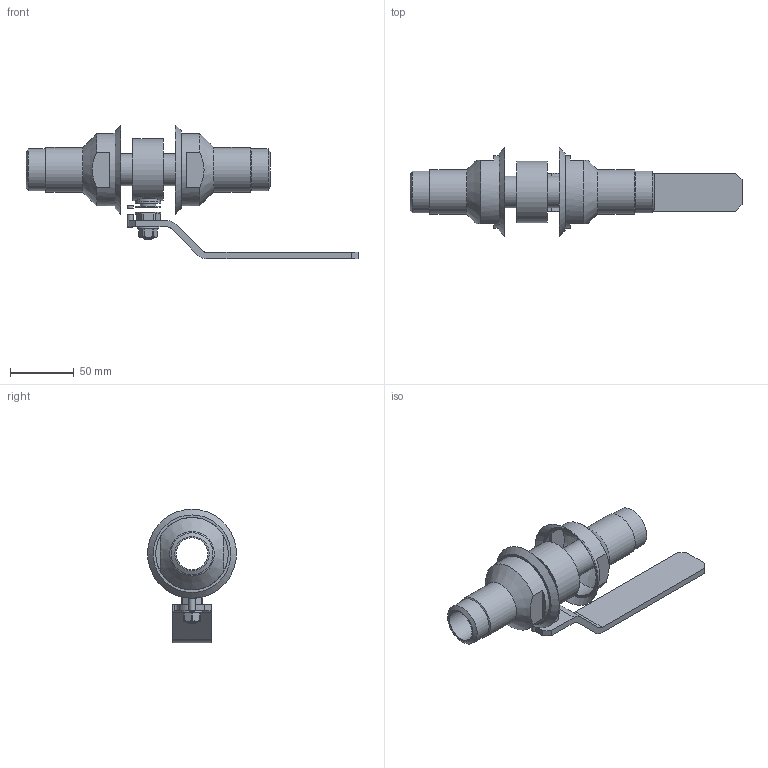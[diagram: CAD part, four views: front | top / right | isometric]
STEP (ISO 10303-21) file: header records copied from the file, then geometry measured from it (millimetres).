
FILE_DESCRIPTION(('STEP AP203'), '1');
FILE_NAME('ZARDP 025.025.40.P.stp', '2013-12-05T13:51:54', ('Øèøêî'), ('Ýíåðïðåä ßðäîñ'), 'ASCON STEP Converter 1.3', 'Kompas 3D', '');
FILE_SCHEMA(('CONFIG_CONTROL_DESIGN','SUPPORT_RESOURCE_SCHEMA'));
Length unit declared in the file: millimetre
Products named in the file (1): 251
Bounding box: 261 x 70 x 105 mm (x, y, z)
Surface area: 67897.2 mm2
Topology: 2 solids, 3 shells, 153 faces, 357 edges, 223 vertices
Faces by surface type: plane 90, cylinder 40, cone 22, torus 1
Full cylindrical faces by diameter (mm): 5 x2, 8 x1, 10.7 x1, 10.917 x1, 12 x1, 12.1 x1, 19.8 x1, 20 x3, 25 x2, 33 x2, 35 x2, 48.4 x1, 57 x2, 70 x1
Entity records: 5512 total; most frequent: CARTESIAN_POINT 1856, DIRECTION 781, ORIENTED_EDGE 712, EDGE_CURVE 357, AXIS2_PLACEMENT_3D 293, VERTEX_POINT 223, LINE 195, VECTOR 195
